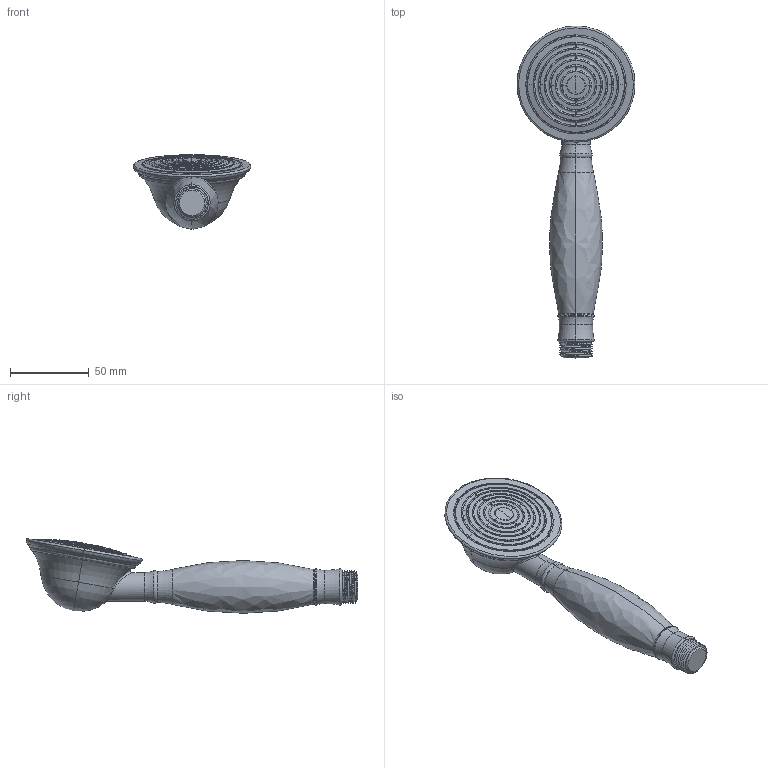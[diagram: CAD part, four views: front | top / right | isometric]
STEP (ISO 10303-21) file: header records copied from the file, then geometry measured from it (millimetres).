
FILE_DESCRIPTION((''),'2;1');
FILE_NAME('76567_SUB01_SW0001','2026-10-01T15:29:52',('simi1'),(''),'CREO PARAMETRIC BY PTC INC, 2022244','CREO PARAMETRIC BY PTC INC, 2022244','');
FILE_SCHEMA(('CONFIG_CONTROL_DESIGN'));
Length unit declared in the file: millimetre
Products named in the file (1): 76567_SUB01_SW0001
Bounding box: 74.71 x 210.24 x 47.24 mm (x, y, z)
Surface area: 29969.4 mm2 (no closed solid volume)
Topology: 0 solids, 7 shells, 125 faces, 399 edges, 265 vertices
Faces by surface type: torus 82, sphere 12, cone 12, bspline 10, plane 5, cylinder 4
Entity records: 6253 total; most frequent: CARTESIAN_POINT 2604, DIRECTION 876, ORIENTED_EDGE 741, AXIS2_PLACEMENT_3D 430, EDGE_CURVE 391, CIRCLE 316, VERTEX_POINT 263, EDGE_LOOP 124
